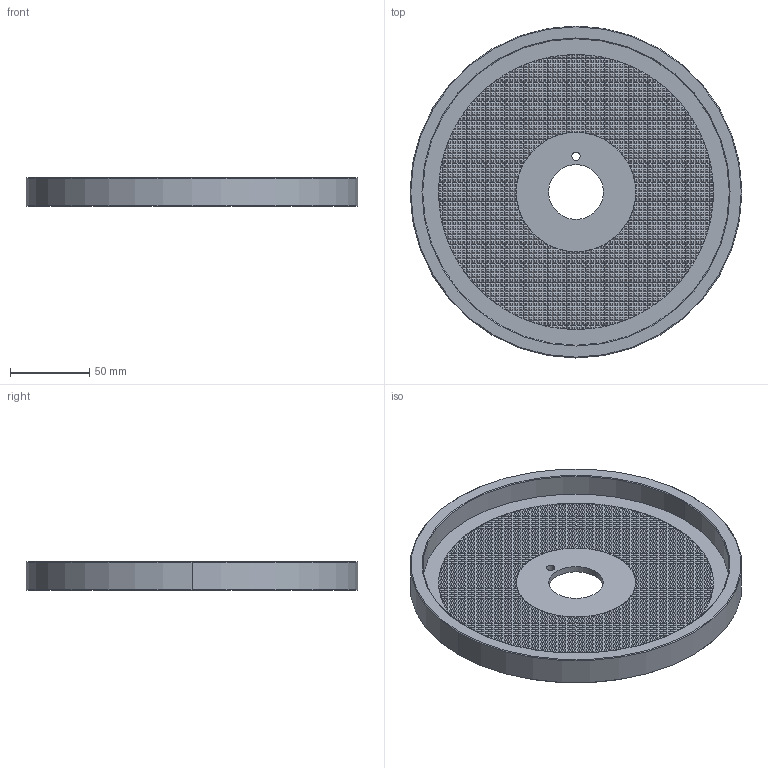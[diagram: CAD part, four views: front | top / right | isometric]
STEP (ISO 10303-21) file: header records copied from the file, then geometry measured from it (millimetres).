
FILE_DESCRIPTION (( 'STEP AP214' ), '1' );
FILE_NAME ('PD007446.01.step', '2024-11-25T16:15:54', ( '' ), ( '' ), 'SwSTEP 2.0', 'SolidWorks 2023', '' );
FILE_SCHEMA (( 'AUTOMOTIVE_DESIGN' ));
Products named in the file (1): PD007446.01
Bounding box: 209 x 209 x 18 mm (x, y, z)
Volume: 194000.5 mm3; surface area: 94369.6 mm2
Topology: 1 solids, 1 shells, 11036 faces, 22528 edges, 11496 vertices
Faces by surface type: plane 10912, cylinder 118, cone 6
Entity records: 269151 total; most frequent: CARTESIAN_POINT 47269, ORIENTED_EDGE 45056, DIRECTION 43998, EDGE_CURVE 22528, LINE 21660, VECTOR 21660, VERTEX_POINT 11496, AXIS2_PLACEMENT_3D 11169
